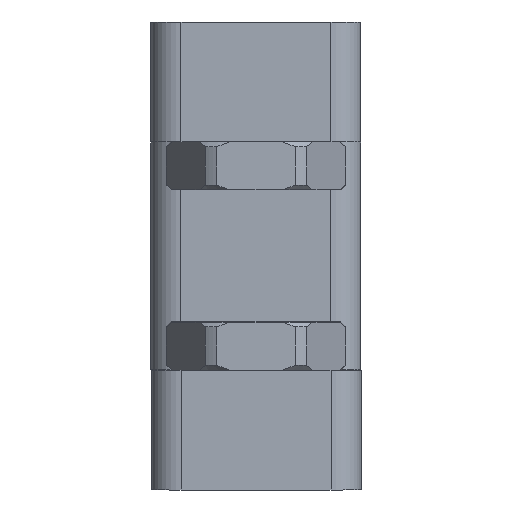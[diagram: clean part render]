
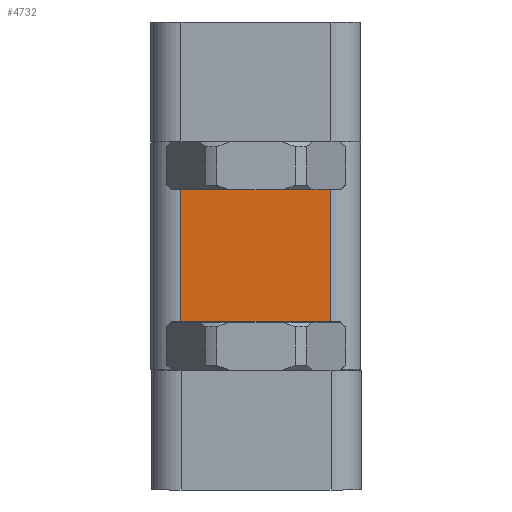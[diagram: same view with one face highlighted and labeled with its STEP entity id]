
A CAD part, left-side view. The second image highlights one B-rep face of the part: STEP entity #4732.
In plain terms, the highlighted planar face has unit normal (-1, 0, 0) as drawn and (0, -1, 0) by its records, which use the part's own axes.
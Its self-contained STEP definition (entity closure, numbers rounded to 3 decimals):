
#353=PLANE('',#5317);
#539=FACE_OUTER_BOUND('',#836,.T.);
#836=EDGE_LOOP('',(#3852,#3853,#3854,#3855));
#1161=LINE('',#7851,#1475);
#1162=LINE('',#7854,#1476);
#1163=LINE('',#7856,#1477);
#1164=LINE('',#7857,#1478);
#1475=VECTOR('',#6432,10.);
#1476=VECTOR('',#6435,10.);
#1477=VECTOR('',#6436,10.);
#1478=VECTOR('',#6437,10.);
#2182=VERTEX_POINT('',#7844);
#2185=VERTEX_POINT('',#7849);
#2186=VERTEX_POINT('',#7853);
#2187=VERTEX_POINT('',#7855);
#2784=EDGE_CURVE('',#2185,#2182,#1161,.T.);
#2785=EDGE_CURVE('',#2185,#2186,#1162,.T.);
#2786=EDGE_CURVE('',#2187,#2186,#1163,.T.);
#2787=EDGE_CURVE('',#2187,#2182,#1164,.T.);
#3852=ORIENTED_EDGE('',*,*,#2784,.F.);
#3853=ORIENTED_EDGE('',*,*,#2785,.T.);
#3854=ORIENTED_EDGE('',*,*,#2786,.F.);
#3855=ORIENTED_EDGE('',*,*,#2787,.T.);
#4732=ADVANCED_FACE('',(#539),#353,.T.);
#5317=AXIS2_PLACEMENT_3D('',#7852,#6433,#6434);
#6432=DIRECTION('',(0.,0.,1.));
#6433=DIRECTION('center_axis',(0.,-1.,0.));
#6434=DIRECTION('ref_axis',(0.,0.,-1.));
#6435=DIRECTION('',(1.,0.,0.));
#6436=DIRECTION('',(0.,0.,-1.));
#6437=DIRECTION('',(-1.,0.,0.));
#7844=CARTESIAN_POINT('',(5.,0.,38.));
#7849=CARTESIAN_POINT('',(5.,0.,0.));
#7851=CARTESIAN_POINT('',(5.,0.,0.));
#7852=CARTESIAN_POINT('Origin',(35.,0.,0.));
#7853=CARTESIAN_POINT('',(30.,0.,0.));
#7854=CARTESIAN_POINT('',(0.,0.,0.));
#7855=CARTESIAN_POINT('',(30.,0.,38.));
#7856=CARTESIAN_POINT('',(30.,0.,0.));
#7857=CARTESIAN_POINT('',(0.,0.,38.));
